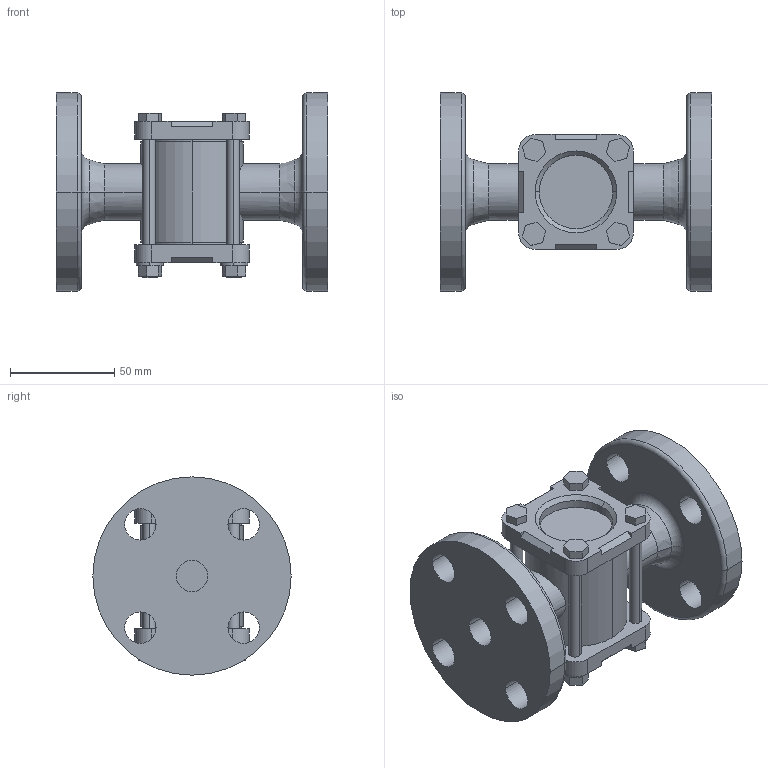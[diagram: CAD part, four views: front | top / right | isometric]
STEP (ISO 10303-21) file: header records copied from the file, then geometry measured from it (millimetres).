
FILE_DESCRIPTION (( 'STEP AP203' ), '1' );
FILE_NAME ('SF-1F 15A.STEP', '2024-09-06T01:13:59', ( '' ), ( '' ), 'SwSTEP 2.0', 'SolidWorks 2024', '' );
FILE_SCHEMA (( 'CONFIG_CONTROL_DESIGN' ));
Length unit declared in the file: millimetre
Products named in the file (1): SF-1F 15A
Bounding box: 130 x 95 x 95 mm (x, y, z)
Volume: 326722.4 mm3; surface area: 67295 mm2
Topology: 1 solids, 1 shells, 200 faces, 498 edges, 324 vertices
Faces by surface type: plane 114, cylinder 70, torus 8, cone 8
Entity records: 6279 total; most frequent: CARTESIAN_POINT 1227, DIRECTION 1064, ORIENTED_EDGE 996, EDGE_CURVE 498, AXIS2_PLACEMENT_3D 369, VECTOR 326, LINE 326, VERTEX_POINT 324
